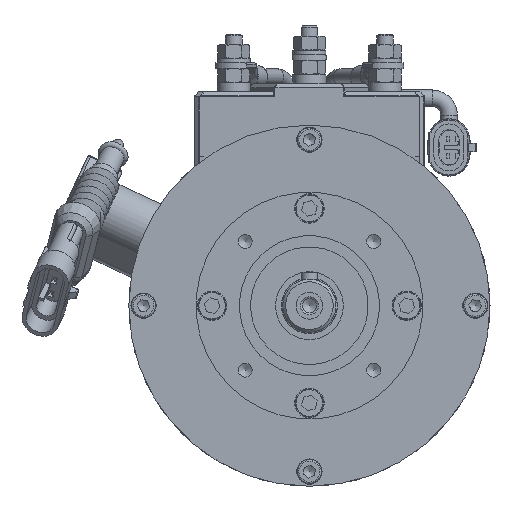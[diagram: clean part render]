
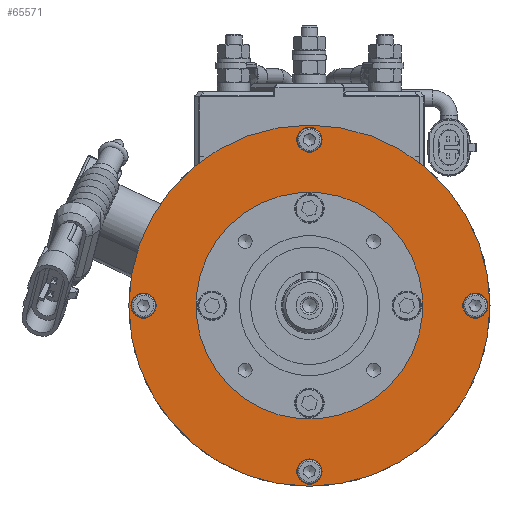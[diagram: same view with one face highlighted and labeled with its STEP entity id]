
A CAD part, front view. The second image highlights one B-rep face of the part: STEP entity #65571.
In plain terms, the highlighted planar face has unit normal (0, -1, 0).
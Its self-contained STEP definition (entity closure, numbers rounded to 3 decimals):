
#1704=FACE_BOUND('',#9622,.T.);
#1705=FACE_BOUND('',#9623,.T.);
#1706=FACE_BOUND('',#9624,.T.);
#1707=FACE_BOUND('',#9625,.T.);
#1708=FACE_BOUND('',#9626,.T.);
#3172=CIRCLE('',#70149,64.5);
#3262=CIRCLE('',#70260,4.5);
#3328=CIRCLE('',#70329,4.5);
#3425=CIRCLE('',#70429,4.5);
#3460=CIRCLE('',#70467,4.5);
#3495=CIRCLE('',#70505,39.4);
#6067=FACE_OUTER_BOUND('',#9621,.T.);
#9621=EDGE_LOOP('',(#46717));
#9622=EDGE_LOOP('',(#46718));
#9623=EDGE_LOOP('',(#46719));
#9624=EDGE_LOOP('',(#46720));
#9625=EDGE_LOOP('',(#46721));
#9626=EDGE_LOOP('',(#46722));
#27153=VERTEX_POINT('',#101565);
#27241=VERTEX_POINT('',#101780);
#27307=VERTEX_POINT('',#101977);
#27374=VERTEX_POINT('',#102146);
#27379=VERTEX_POINT('',#102251);
#27384=VERTEX_POINT('',#102296);
#34221=EDGE_CURVE('',#27153,#27153,#3172,.T.);
#34327=EDGE_CURVE('',#27241,#27241,#3262,.T.);
#34455=EDGE_CURVE('',#27307,#27307,#3328,.T.);
#34554=EDGE_CURVE('',#27374,#27374,#3425,.T.);
#34651=EDGE_CURVE('',#27379,#27379,#3460,.T.);
#34688=EDGE_CURVE('',#27384,#27384,#3495,.T.);
#46717=ORIENTED_EDGE('',*,*,#34221,.T.);
#46718=ORIENTED_EDGE('',*,*,#34327,.T.);
#46719=ORIENTED_EDGE('',*,*,#34455,.T.);
#46720=ORIENTED_EDGE('',*,*,#34554,.T.);
#46721=ORIENTED_EDGE('',*,*,#34651,.T.);
#46722=ORIENTED_EDGE('',*,*,#34688,.F.);
#59442=PLANE('',#70504);
#65571=ADVANCED_FACE('',(#6067,#1704,#1705,#1706,#1707,#1708),#59442,.T.);
#70149=AXIS2_PLACEMENT_3D('',#101566,#81764,#81765);
#70260=AXIS2_PLACEMENT_3D('',#101781,#82002,#82003);
#70329=AXIS2_PLACEMENT_3D('',#101978,#82202,#82203);
#70429=AXIS2_PLACEMENT_3D('',#102147,#82404,#82405);
#70467=AXIS2_PLACEMENT_3D('',#102252,#82542,#82543);
#70504=AXIS2_PLACEMENT_3D('',#102295,#82618,#82619);
#70505=AXIS2_PLACEMENT_3D('',#102297,#82620,#82621);
#81764=DIRECTION('center_axis',(0.,-1.,0.));
#81765=DIRECTION('ref_axis',(0.,0.,
1.));
#82002=DIRECTION('center_axis',(0.,1.,0.));
#82003=DIRECTION('ref_axis',(1.,0.,0.));
#82202=DIRECTION('center_axis',(0.,1.,0.));
#82203=DIRECTION('ref_axis',(0.,0.,
1.));
#82404=DIRECTION('center_axis',(0.,1.,0.));
#82405=DIRECTION('ref_axis',(-1.,0.,0.));
#82542=DIRECTION('center_axis',(0.,1.,0.));
#82543=DIRECTION('ref_axis',(0.,0.,
-1.));
#82618=DIRECTION('center_axis',(0.,-1.,0.));
#82619=DIRECTION('ref_axis',(1.,0.,0.));
#82620=DIRECTION('center_axis',(0.,-1.,0.));
#82621=DIRECTION('ref_axis',(0.,0.,
-1.));
#101565=CARTESIAN_POINT('',(0.,-13.5,-64.5));
#101566=CARTESIAN_POINT('Origin',(0.,-13.5,0.));
#101780=CARTESIAN_POINT('',(-4.5,-13.5,59.25));
#101781=CARTESIAN_POINT('Origin',(0.,-13.5,59.25));
#101977=CARTESIAN_POINT('',(-59.25,-13.5,-4.5));
#101978=CARTESIAN_POINT('Origin',(-59.25,-13.5,0.));
#102146=CARTESIAN_POINT('',(4.5,-13.5,-59.25));
#102147=CARTESIAN_POINT('Origin',(0.,-13.5,-59.25));
#102251=CARTESIAN_POINT('',(59.25,-13.5,4.5));
#102252=CARTESIAN_POINT('Origin',(59.25,-13.5,0.));
#102295=CARTESIAN_POINT('Origin',(0.,-13.5,51.75));
#102296=CARTESIAN_POINT('',(-39.4,-13.5,0.));
#102297=CARTESIAN_POINT('Origin',(0.,-13.5,0.));
